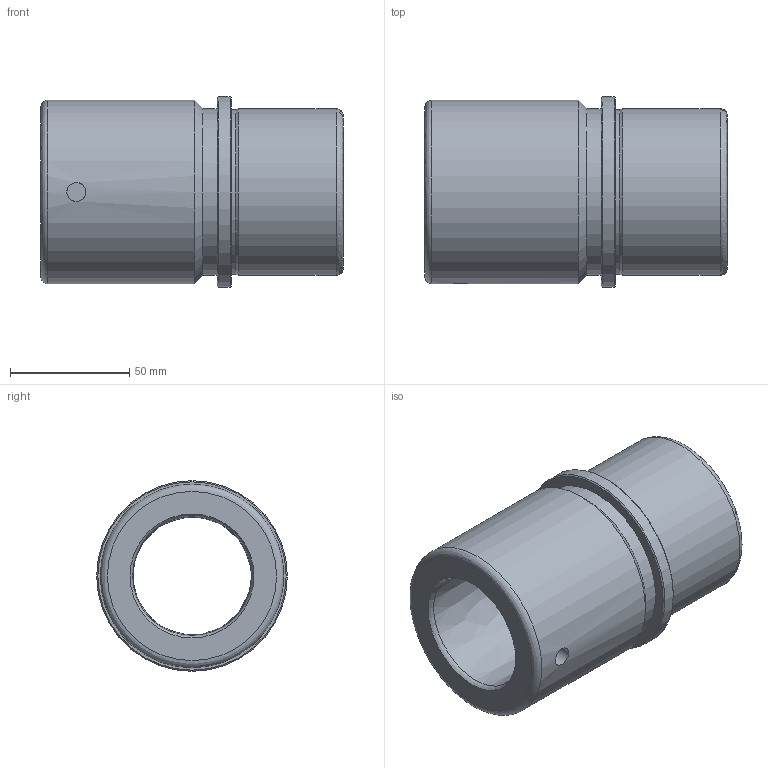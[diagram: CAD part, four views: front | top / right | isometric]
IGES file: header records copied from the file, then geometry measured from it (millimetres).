
Global section: file name: BEBA50-1.ipt; native system: Autodesk Inventor 2021; preprocessor: unknown; author: SM; date: 20220119.054250; units: millimetre
Bounding box: 127 x 80 x 80 mm (x, y, z)
Volume: 297878.1 mm3; surface area: 97583.2 mm2
Topology: 2 solids, 2 shells, 22 faces, 58 edges, 37 vertices
Faces by surface type: revolution 8, cylinder 6, plane 4, cone 4
Full cylindrical faces by diameter (mm): 52 x1, 69 x1, 70 x2, 77 x1, 80 x1
